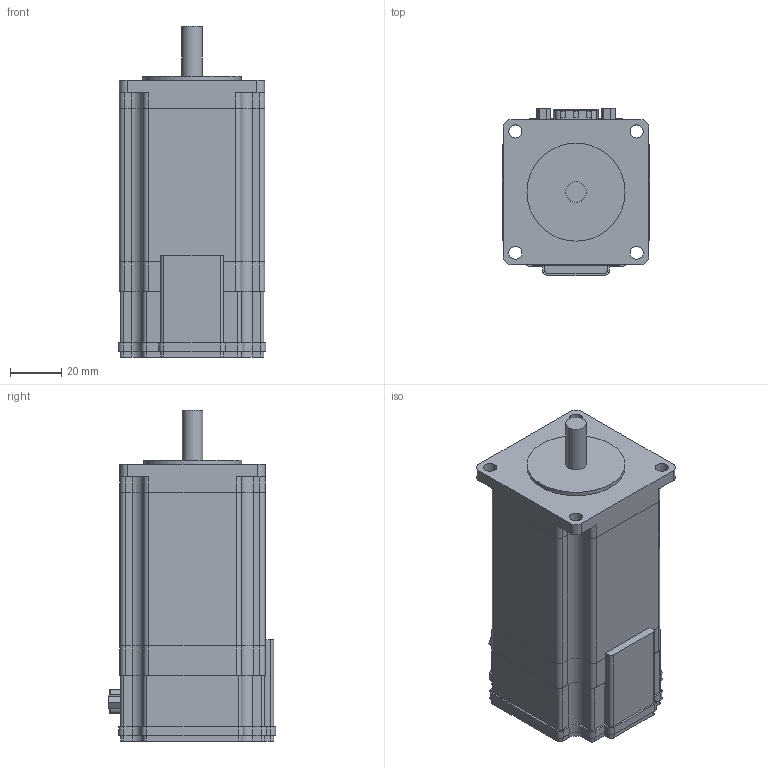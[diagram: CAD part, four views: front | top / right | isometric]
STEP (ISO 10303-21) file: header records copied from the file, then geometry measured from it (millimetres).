
FILE_DESCRIPTION(/* description */ ('Alibre Inc.'),/* implementation_level */ '2;1');
FILE_NAME(/* name */ 'export-DD195341-CE59-4454-99C1-A9B9E288BA64',/* time_stamp */ '2019-07-16T09:29:47-07:00',/* author */ (''),/* organization */ (''),/* preprocessor_version */ 'ST-DEVELOPER v17',/* originating_system */ 'Alibre',/* authorisation */ '');
FILE_SCHEMA (('AUTOMOTIVE_DESIGN'));
Length unit declared in the file: inch
Bounding box: 57.4 x 64.95 x 128.65 mm (x, y, z)
Volume: 256116.7 mm3; surface area: 63019.5 mm2
Topology: 66 solids, 66 shells, 1866 faces, 4805 edges, 3153 vertices
Faces by surface type: plane 840, bspline 641, cylinder 335, torus 50
Full cylindrical faces by diameter (mm): 2.459 x8, 2.489 x2, 2.87 x2, 3 x4, 3.175 x2, 5.1 x4, 6.35 x2, 8 x1, 38.1 x1
Entity records: 61447 total; most frequent: CARTESIAN_POINT 20946, ORIENTED_EDGE 9568, DIRECTION 5518, EDGE_CURVE 4754, VERTEX_POINT 3134, VECTOR 2729, LINE 2729, EDGE_LOOP 2002
